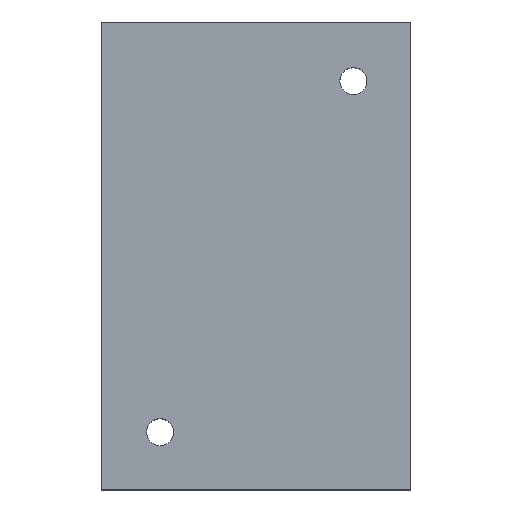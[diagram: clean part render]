
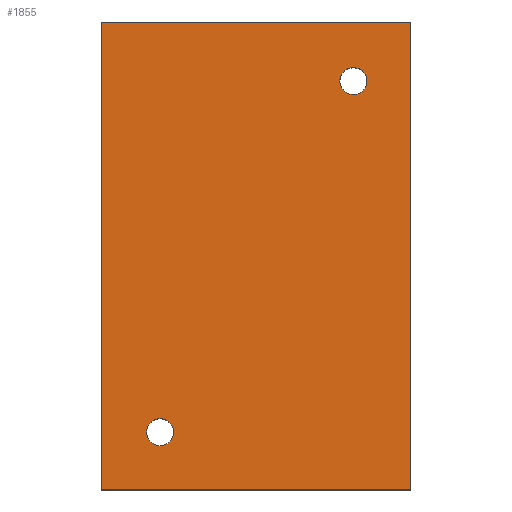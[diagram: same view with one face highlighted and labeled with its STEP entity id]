
A CAD part, top view. The second image highlights one B-rep face of the part: STEP entity #1855.
In plain terms, the highlighted planar face has unit normal (0, 0, 1).
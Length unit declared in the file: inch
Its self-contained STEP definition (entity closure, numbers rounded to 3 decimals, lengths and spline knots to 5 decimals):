
#1=DIRECTION('',(-1.,0.,0.));
#2=VECTOR('',#1,3.93);
#3=CARTESIAN_POINT('',(3.93,0.,0.));
#4=LINE('',#3,#2);
#27=DIRECTION('',(0.,1.,0.));
#28=VECTOR('',#27,5.93);
#29=CARTESIAN_POINT('',(0.,-5.93,0.));
#30=LINE('',#29,#28);
#31=CARTESIAN_POINT('',(3.2,-0.75,0.));
#32=DIRECTION('',(0.,0.,-1.));
#33=DIRECTION('',(-1.,0.,0.));
#34=AXIS2_PLACEMENT_3D('',#31,#32,#33);
#36=CARTESIAN_POINT('',(3.2,-0.75,0.));
#37=DIRECTION('',(0.,0.,-1.));
#38=DIRECTION('',(1.,0.,0.));
#39=AXIS2_PLACEMENT_3D('',#36,#37,#38);
#41=CARTESIAN_POINT('',(0.75,-5.2,0.));
#42=DIRECTION('',(0.,0.,-1.));
#43=DIRECTION('',(-1.,0.,0.));
#44=AXIS2_PLACEMENT_3D('',#41,#42,#43);
#46=CARTESIAN_POINT('',(0.75,-5.2,0.));
#47=DIRECTION('',(0.,0.,-1.));
#48=DIRECTION('',(1.,0.,0.));
#49=AXIS2_PLACEMENT_3D('',#46,#47,#48);
#51=DIRECTION('',(0.,1.,0.));
#52=VECTOR('',#51,5.93);
#53=CARTESIAN_POINT('',(3.93,-5.93,0.));
#54=LINE('',#53,#52);
#123=DIRECTION('',(-1.,0.,0.));
#124=VECTOR('',#123,3.93);
#125=CARTESIAN_POINT('',(3.93,-5.93,0.));
#126=LINE('',#125,#124);
#1474=CARTESIAN_POINT('',(3.93,0.,0.));
#1475=CARTESIAN_POINT('',(0.,0.,0.));
#1476=VERTEX_POINT('',#1474);
#1477=VERTEX_POINT('',#1475);
#1482=CARTESIAN_POINT('',(3.93,-5.93,0.));
#1483=CARTESIAN_POINT('',(0.,-5.93,0.));
#1484=VERTEX_POINT('',#1482);
#1485=VERTEX_POINT('',#1483);
#1490=CARTESIAN_POINT('',(3.028,-0.75,0.));
#1491=CARTESIAN_POINT('',(3.372,-0.75,0.));
#1492=VERTEX_POINT('',#1490);
#1493=VERTEX_POINT('',#1491);
#1498=CARTESIAN_POINT('',(0.578,-5.2,0.));
#1499=CARTESIAN_POINT('',(0.922,-5.2,0.));
#1500=VERTEX_POINT('',#1498);
#1501=VERTEX_POINT('',#1499);
#1829=CARTESIAN_POINT('',(0.,0.,0.));
#1830=DIRECTION('',(0.,0.,1.));
#1831=DIRECTION('',(1.,0.,0.));
#1832=AXIS2_PLACEMENT_3D('',#1829,#1830,#1831);
#1833=PLANE('',#1832);
#1834=ORIENTED_EDGE('',*,*,#1812,.F.);
#1836=ORIENTED_EDGE('',*,*,#1835,.F.);
#1838=ORIENTED_EDGE('',*,*,#1837,.T.);
#1840=ORIENTED_EDGE('',*,*,#1839,.T.);
#1841=EDGE_LOOP('',(#1834,#1836,#1838,#1840));
#1842=FACE_OUTER_BOUND('',#1841,.F.);
#1844=ORIENTED_EDGE('',*,*,#1843,.F.);
#1846=ORIENTED_EDGE('',*,*,#1845,.F.);
#1847=EDGE_LOOP('',(#1844,#1846));
#1848=FACE_BOUND('',#1847,.F.);
#1850=ORIENTED_EDGE('',*,*,#1849,.F.);
#1852=ORIENTED_EDGE('',*,*,#1851,.F.);
#1853=EDGE_LOOP('',(#1850,#1852));
#1854=FACE_BOUND('',#1853,.F.);
#1855=ADVANCED_FACE('',(#1842,#1848,#1854),#1833,.T.);
#35=CIRCLE('',#34,0.172);
#40=CIRCLE('',#39,0.172);
#45=CIRCLE('',#44,0.172);
#50=CIRCLE('',#49,0.172);
#1812=EDGE_CURVE('',#1476,#1477,#4,.T.);
#1835=EDGE_CURVE('',#1484,#1476,#54,.T.);
#1837=EDGE_CURVE('',#1484,#1485,#126,.T.);
#1839=EDGE_CURVE('',#1485,#1477,#30,.T.);
#1843=EDGE_CURVE('',#1492,#1493,#35,.T.);
#1845=EDGE_CURVE('',#1493,#1492,#40,.T.);
#1849=EDGE_CURVE('',#1500,#1501,#45,.T.);
#1851=EDGE_CURVE('',#1501,#1500,#50,.T.);
